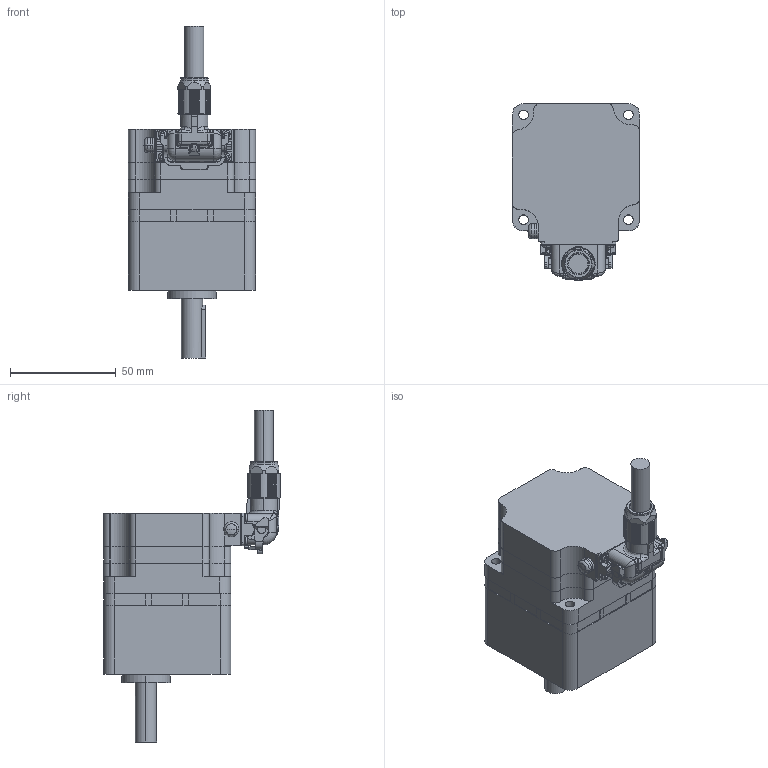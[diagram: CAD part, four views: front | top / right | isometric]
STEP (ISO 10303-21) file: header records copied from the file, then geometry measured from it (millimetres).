
FILE_DESCRIPTION (( 'STEP AP203' ), '1' );
FILE_NAME ('A1466B.STEP', '2015-09-08T05:26:13', ( 'om' ), ( 'Hewlett-Packard Company' ), 'SwSTEP 2.0', 'SolidWorks 2014', '' );
FILE_SCHEMA (( 'CONFIG_CONTROL_DESIGN' ));
Length unit declared in the file: millimetre
Products named in the file (1): A1466B
Bounding box: 60 x 83.5 x 156.7 mm (x, y, z)
Volume: 278220.8 mm3; surface area: 44816.8 mm2
Topology: 3 solids, 9 shells, 1121 faces, 2945 edges, 1854 vertices
Faces by surface type: plane 581, cylinder 410, bspline 58, torus 44, cone 24, sphere 4
Entity records: 42069 total; most frequent: CARTESIAN_POINT 15172, ORIENTED_EDGE 5870, DIRECTION 5228, EDGE_CURVE 2935, VERTEX_POINT 1854, AXIS2_PLACEMENT_3D 1750, LINE 1728, VECTOR 1728
